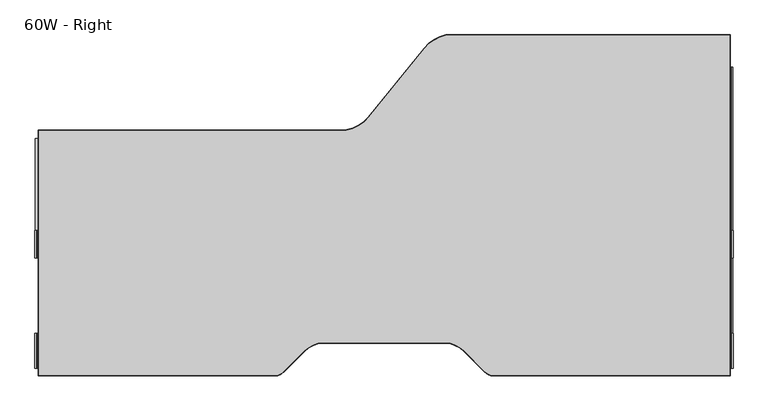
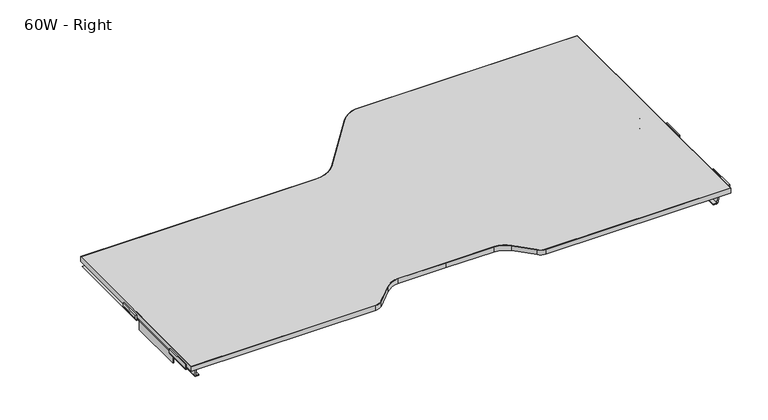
"""IFC4 building model written with IfcOpenShell, lengths in millimetres: furniture geometry, Steelcase Turnstone - Bivi - Table - Dual Top - Lower : 60W - Right."""

from ifc_helpers import new_model, si_unit, point, frame, frame_2d, origin, place, context, project, spatial, polyline, circle_curve, ellipse_curve, trimmed, segment, composite_curve, outline, extrude, source, transform, mapped, element, save
from ifc_brep_helpers import plane_surface, cylinder_surface, revolved_surface, advanced_brep


def furniture_60w_right_3e926bd7(model_context):
    return source(origin(), model_context, "Body", "SolidModel", [
        advanced_brep(
        [(1017.4901364, -89.1376402, 724.5249134), (971.5732244, -117.1117408, 724.5249134), (852.7982248, -263.786479, 724.5249134), (792.4632404, -292.2477989, 724.5249134), (150.7558466, -292.2477989, 724.5249134), (150.7558466, -814.2061738, 724.5249134), (653.8424613, -814.2061738, 724.5249134), (672.5249468, -805.5482561, 724.5249134), (716.3864317, -761.6868032, 724.5249134), (755.129423, -744.2993467, 724.5249134), (886.2032875, -744.2993467, 724.5249134), (1017.2770699, -744.2993467, 724.5249134), (1056.0202275, -761.6868553, 724.5249134), (1099.5811176, -805.3382607, 724.5249134), (1118.5570931, -814.2061738, 724.5249134), (1622.054541, -814.2061738, 724.5249134), (1622.054541, -89.1373857, 724.5249134), (1017.4901364, -89.1376402, 710.5549328), (1622.054541, -89.1373857, 710.5549328), (1622.054541, -814.2061738, 710.5549328), (1118.5570931, -814.2061738, 710.5549328), (1099.5811176, -805.3382607, 710.5549328), (1056.0202275, -761.6868553, 710.5549328), (1017.2770699, -744.2993467, 710.5549328), (886.2032875, -744.2993467, 710.5549328), (755.129423, -744.2993467, 710.5549328), (716.3864317, -761.6868032, 710.5549328), (672.5249468, -805.5482561, 710.5549328), (653.8424613, -814.1239839, 710.5549328), (150.7558466, -814.2061738, 710.5549328), (150.7558466, -292.2477989, 710.5549328), (792.4632404, -292.2477989, 710.5549328), (852.7982248, -263.786479, 710.5549328), (971.5732244, -117.1117408, 710.5549328)],
        [
            (0, 1, circle_curve(frame((1033.7062378, -167.4261218, 724.5249134), z_axis=(0.0, 0.0, 1.0), x_axis=(-0.4063186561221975, -0.913731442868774, 0.0)), 79.9502863)),
            (1, 2),
            (2, 3, circle_curve(frame((793.1218611, -215.4614562, 724.5249134), z_axis=(0.0, 0.0, -1.0), x_axis=(-0.4063186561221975, -0.913731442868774, 0.0)), 76.7891673)),
            (3, 4),
            (4, 5),
            (5, 6),
            (6, 7, circle_curve(frame((651.8494671, -785.1441379, 724.5249134), z_axis=(0.0, 0.0, 1.0), x_axis=(-0.4063186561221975, -0.913731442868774, 0.0)), 29.048296)),
            (7, 8),
            (8, 9, circle_curve(frame((758.6083688, -803.9087712, 724.5249134), z_axis=(0.0, 0.0, -1.0), x_axis=(-0.4063186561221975, -0.913731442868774, 0.0)), 59.7108579)),
            (9, 10),
            (10, 11),
            (11, 12, circle_curve(frame((1013.7981972, -803.9088855, 724.5249134), z_axis=(0.0, 0.0, -1.0), x_axis=(-0.4063186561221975, -0.913731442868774, 0.0)), 59.7109678)),
            (12, 13),
            (13, 14, circle_curve(frame((1121.2592477, -783.6871801, 724.5249134), z_axis=(0.0, 0.0, 1.0), x_axis=(-0.4063186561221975, -0.913731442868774, 0.0)), 30.6383847)),
            (14, 15),
            (15, 16),
            (16, 0),
            (17, 18),
            (18, 19),
            (19, 20),
            (20, 21, circle_curve(frame((1121.2592477, -783.6871801, 710.5549328), z_axis=(0.0, 0.0, -1.0), x_axis=(-0.4063186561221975, -0.913731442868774, 0.0)), 30.6383847)),
            (21, 22),
            (22, 23, circle_curve(frame((1013.7981972, -803.9088855, 710.5549328), z_axis=(0.0, 0.0, 1.0), x_axis=(-0.4063186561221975, -0.913731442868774, 0.0)), 59.7109678)),
            (23, 24),
            (24, 25),
            (25, 26, circle_curve(frame((758.6083688, -803.9087712, 710.5549328), z_axis=(0.0, 0.0, 1.0), x_axis=(-0.4063186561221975, -0.913731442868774, 0.0)), 59.7108579)),
            (26, 27),
            (27, 28, circle_curve(frame((651.8494671, -785.1441379, 710.5549328), z_axis=(0.0, 0.0, -1.0), x_axis=(-0.4063186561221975, -0.913731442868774, 0.0)), 29.048296)),
            (28, 29),
            (29, 30),
            (30, 31),
            (31, 32, circle_curve(frame((793.1218611, -215.4614562, 710.5549328), z_axis=(0.0, 0.0, 1.0), x_axis=(-0.4063186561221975, -0.913731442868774, 0.0)), 76.7891673)),
            (32, 33),
            (33, 17, circle_curve(frame((1033.7062378, -167.4261218, 710.5549328), z_axis=(0.0, 0.0, -1.0), x_axis=(-0.4063186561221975, -0.913731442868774, 0.0)), 79.9502863)),
            (16, 18),
            (17, 0),
            (15, 19),
            (14, 20),
            (13, 21),
            (12, 22),
            (11, 23),
            (10, 24),
            (9, 25),
            (8, 26),
            (7, 27),
            (6, 28),
            (5, 29),
            (4, 30),
            (3, 31),
            (2, 32),
            (1, 33),
        ],
        [
            plane_surface(frame((1622.054541, -89.1373857, 724.5249134), z_axis=(0.0, 0.0, 1.0), x_axis=(0.9999999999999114, 4.210482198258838e-07, 0.0))),
            plane_surface(frame((1622.054541, -89.1373857, 710.5549328), z_axis=(0.0, 0.0, -1.0), x_axis=(-0.9999999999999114, -4.210482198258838e-07, 0.0))),
            plane_surface(frame((1017.4901364, -89.1376402, 724.5249134), z_axis=(-4.210482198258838e-07, 0.9999999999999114, 0.0), x_axis=(0.0, 0.0, -1.0))),
            plane_surface(frame((1622.054541, -89.1373857, 724.5249134), z_axis=(1.0, 0.0, 0.0), x_axis=(0.0, 0.0, -1.0))),
            plane_surface(frame((1622.054541, -814.2061738, 724.5249134), z_axis=(0.0, -1.0, 0.0), x_axis=(0.0, 0.0, -1.0))),
            cylinder_surface(frame((1121.2592477, -783.6871801, 710.5549328), z_axis=(0.0, 0.0, 1.0), x_axis=(-0.4063186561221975, -0.913731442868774, 0.0)), 30.6383847),
            plane_surface(frame((1099.5811176, -805.3382607, 724.5249134), z_axis=(-0.7078402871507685, -0.7063725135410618, 0.0), x_axis=(0.0, 0.0, -1.0))),
            revolved_surface(polyline([(989.5365170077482, -858.4686742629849, 710.5549328), (989.5365170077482, -858.4686742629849, 724.5249134)]), (1013.7981972, -803.9088855, 710.5549328), (0.0, 0.0, -1.0)),
            plane_surface(frame((1017.2770699, -744.2993467, 724.5249134), z_axis=(0.0, -1.0, 0.0), x_axis=(0.0, 0.0, -1.0))),
            plane_surface(frame((886.2032875, -744.2993467, 724.5249134), z_axis=(0.0, -1.0, 0.0), x_axis=(0.0, 0.0, -1.0))),
            revolved_surface(polyline([(734.3467332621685, -858.4684595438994, 710.5549328), (734.3467332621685, -858.4684595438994, 724.5249134)]), (758.6083688, -803.9087712, 710.5549328), (0.0, 0.0, -1.0)),
            plane_surface(frame((716.3864317, -761.6868032, 724.5249134), z_axis=(0.7071065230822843, -0.7071070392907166, 0.0), x_axis=(0.0, 0.0, -1.0))),
            cylinder_surface(frame((651.8494671, -785.1441379, 710.5549328), z_axis=(0.0, 0.0, 1.0), x_axis=(-0.4063186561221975, -0.913731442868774, 0.0)), 29.048296),
            plane_surface(frame((653.8424613, -814.2061738, 724.5249134), z_axis=(0.0, -1.0, 0.0), x_axis=(0.0, 0.0, -1.0))),
            plane_surface(frame((150.7558466, -814.2061738, 724.5249134), z_axis=(-1.0, 0.0, 0.0), x_axis=(0.0, 0.0, -1.0))),
            plane_surface(frame((150.7558466, -292.2477989, 724.5249134), z_axis=(0.0, 1.0, 0.0), x_axis=(0.0, 0.0, -1.0))),
            revolved_surface(polyline([(761.9209898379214, -285.62613283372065, 710.5549328), (761.9209898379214, -285.62613283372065, 724.5249134)]), (793.1218611, -215.4614562, 710.5549328), (0.0, 0.0, -1.0)),
            plane_surface(frame((852.7982248, -263.786479, 724.5249134), z_axis=(-0.7771456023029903, 0.6293208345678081, 0.0), x_axis=(0.0, 0.0, -1.0))),
            cylinder_surface(frame((1033.7062378, -167.4261218, 710.5549328), z_axis=(0.0, 0.0, 1.0), x_axis=(-0.4063186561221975, -0.913731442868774, 0.0)), 79.9502863),
        ],
        [
            (0, [[1, 2, 3, 4, 5, 6, 7, 8, 9, 10, 11, 12, 13, 14, 15, 16, 17]]),
            (1, [[18, 19, 20, 21, 22, 23, 24, 25, 26, 27, 28, 29, 30, 31, 32, 33, 34]]),
            (2, [[35, -18, 36, -17]]),
            (3, [[37, -19, -35, -16]]),
            (4, [[38, -20, -37, -15]]),
            (5, [[39, -21, -38, -14]]),
            (6, [[40, -22, -39, -13]]),
            (7, [[41, -23, -40, -12]]),
            (8, [[42, -24, -41, -11]]),
            (9, [[43, -25, -42, -10]]),
            (10, [[44, -26, -43, -9]]),
            (11, [[45, -27, -44, -8]]),
            (12, [[46, -28, -45, -7]]),
            (13, [[47, -29, -46, -6]]),
            (14, [[48, -30, -47, -5]]),
            (15, [[49, -31, -48, -4]]),
            (16, [[50, -32, -49, -3]]),
            (17, [[51, -33, -50, -2]]),
            (18, [[-36, -34, -51, -1]]),
        ],
    ),
        extrude(outline(composite_curve([segment(polyline([(149.8432404, -815.2221738), (149.8432404, -291.2645176), (792.4555619, -291.2645176)]), True, "CONTINUOUS"), segment(trimmed(circle_curve(frame_2d((792.4555619, -214.0707453)), 77.1937723), [point((792.4555619, -291.2645176))], [point((852.0785981, -263.1010628))], True, "CARTESIAN"), True, "CONTINUOUS"), segment(polyline([(852.0785981, -263.1010628), (970.8808515, -116.3926937)]), True, "CONTINUOUS"), segment(trimmed(circle_curve(frame_2d((1033.4468929, -167.0577426)), 80.5074948), [point((970.8808515, -116.3926937))], [point((1017.4913654, -88.1471738))], False, "CARTESIAN"), True, "CONTINUOUS"), segment(polyline([(1017.4913654, -88.1471738), (1623.0432404, -88.1471738), (1623.0432404, -815.2221738), (1118.6992501, -815.2221738)]), True, "CONTINUOUS"), segment(trimmed(circle_curve(frame_2d((1121.2631908, -783.6783822)), 31.6478212), [point((1118.6992501, -815.2221738))], [point((1098.8724869, -806.0444494))], False, "CARTESIAN"), True, "CONTINUOUS"), segment(polyline([(1098.8724869, -806.0444494), (1055.301807, -762.4052758)]), True, "CONTINUOUS"), segment(trimmed(circle_curve(frame_2d((1013.7981972, -803.9088855)), 58.6949678), [point((1055.301807, -762.4052758))], [point((1017.2473205, -745.3153467))], True, "CARTESIAN"), True, "CONTINUOUS"), segment(polyline([(1017.2473205, -745.3153467), (886.2032875, -745.3153467), (754.8597903, -745.3153467)]), True, "CONTINUOUS"), segment(trimmed(circle_curve(frame_2d((758.5921228, -803.8917343)), 58.6951743), [point((754.8597903, -745.3153467))], [point((717.0883671, -762.3879785))], True, "CARTESIAN"), True, "CONTINUOUS"), segment(polyline([(717.0883671, -762.3879785), (673.1030177, -806.4601292)]), True, "CONTINUOUS"), segment(trimmed(circle_curve(frame_2d((651.8021969, -785.1871914)), 30.1041999), [point((673.1030177, -806.4601292))], [point((653.8424613, -815.2221738))], False, "CARTESIAN"), True, "CONTINUOUS"), segment(polyline([(653.8424613, -815.2221738), (149.8432404, -815.2221738)]), True, "CONTINUOUS")], self_intersect=False), holes=[composite_curve([segment(polyline([(1622.054541, -814.2061738), (1622.054541, -89.1373857), (1017.4901364, -89.1376402)]), True, "CONTINUOUS"), segment(trimmed(circle_curve(frame_2d((1033.7062378, -167.4261218)), 79.9502863), [point((1017.4901364, -89.1376402))], [point((971.5732244, -117.1117408))], True, "CARTESIAN"), True, "CONTINUOUS"), segment(polyline([(971.5732244, -117.1117408), (852.7982248, -263.786479)]), True, "CONTINUOUS"), segment(trimmed(circle_curve(frame_2d((793.1218611, -215.4614562)), 76.7891673), [point((852.7982248, -263.786479))], [point((792.4632404, -292.2477989))], False, "CARTESIAN"), True, "CONTINUOUS"), segment(polyline([(792.4632404, -292.2477989), (150.7558466, -292.2477989), (150.7558466, -814.2061738), (653.8424613, -814.2061738)]), True, "CONTINUOUS"), segment(trimmed(circle_curve(frame_2d((651.8367587, -785.1872141)), 29.0881912), [point((653.8424613, -814.2061738))], [point((672.5545422, -805.605253))], True, "CARTESIAN"), True, "CONTINUOUS"), segment(polyline([(672.5545422, -805.605253), (716.3865606, -761.6866743)]), True, "CONTINUOUS"), segment(trimmed(circle_curve(frame_2d((758.6083688, -803.9087712)), 59.7108579), [point((716.3865606, -761.6866743))], [point((755.129423, -744.2993467))], False, "CARTESIAN"), True, "CONTINUOUS"), segment(polyline([(755.129423, -744.2993467), (886.2032875, -744.2993467), (1017.2770699, -744.2993467)]), True, "CONTINUOUS"), segment(trimmed(circle_curve(frame_2d((1013.7981972, -803.9088855)), 59.7109678), [point((1017.2770699, -744.2993467))], [point((1056.0202275, -761.6868553))], False, "CARTESIAN"), True, "CONTINUOUS"), segment(polyline([(1056.0202275, -761.6868553), (1099.5811176, -805.3382607)]), True, "CONTINUOUS"), segment(trimmed(circle_curve(frame_2d((1121.2592477, -783.6871801)), 30.6383847), [point((1099.5811176, -805.3382607))], [point((1118.5570931, -814.2061738))], True, "CARTESIAN"), True, "CONTINUOUS"), segment(polyline([(1118.5570931, -814.2061738), (1622.054541, -814.2061738)]), True, "CONTINUOUS")], self_intersect=False)]), frame((0.0, 0.0, 710.5550297), z_axis=(0.0, 0.0, 1.0), x_axis=(1.0, 0.0, 0.0)), (0.0, 0.0, 1.0), 13.9698837),
        advanced_brep(
        [(145.5818241, -504.690356, 711.9212369), (145.5818241, -504.690356, 723.0029133), (145.5818241, -563.7451183, 723.0029133), (145.5818241, -563.7453741, 711.9212369), (145.5818241, -724.4001739, 711.9212369), (145.5818241, -724.4001739, 723.0029133), (145.5818241, -798.4679915, 723.0029133), (145.5818241, -798.4679915, 711.9212369), (142.5439281, -504.690356, 723.0029133), (142.5439281, -563.7451183, 723.0029133), (142.5439281, -724.4001739, 723.0029133), (142.5439281, -798.4679915, 723.0029133), (142.5439281, -504.690356, 711.9212369), (142.5439281, -563.7453741, 711.9212369), (142.5439281, -724.4001739, 711.9212369), (142.5439281, -798.4679915, 711.9212369), (143.7646064, -504.690356, 708.9675297), (143.7646064, -309.2290349, 708.9675297), (147.4373911, -309.2290349, 707.3122286), (147.4373911, -563.7454805, 707.3122286), (147.4373911, -724.4001739, 707.3122286), (147.4373911, -798.3703978, 707.3122286), (145.2762535, -798.4679915, 707.8143047), (168.8139092, -309.2290349, 707.3122286), (168.8139092, -563.7454805, 707.3122286), (168.8139092, -724.4001739, 707.3122286), (168.8139092, -798.3703978, 707.3122286), (170.6953721, -309.2290349, 705.4307657), (170.6953721, -798.0046785, 705.4307657), (170.6778738, -724.4001739, 705.6867706), (170.6778738, -563.745518, 705.6867706), (170.6953721, -309.2290349, 696.2929994), (170.6953721, -329.5446913, 678.5226778), (170.6953721, -792.7742761, 678.5226778), (175.2571761, -334.4128036, 674.264488), (175.2571761, -791.9465678, 674.264488), (183.3953277, -334.4128036, 674.264488), (183.3953277, -791.9465678, 674.264488), (183.3953277, -330.8423444, 677.3876068), (183.3953277, -792.5536406, 677.3876068), (174.3746318, -330.8423444, 677.3876068), (174.3746318, -792.5536406, 677.3876068), (174.3746318, -309.2290349, 696.2929994), (174.3746318, -309.2290349, 704.7057937), (174.3746318, -797.8637582, 704.7057937), (172.431084, -309.2290349, 708.9675297), (172.431084, -504.690356, 708.9675297), (168.7303737, -504.690356, 710.3500519), (168.7303737, -563.7454104, 710.3500519), (174.288731, -563.745518, 705.6867697), (174.2887309, -724.4001739, 705.6867706), (168.7303737, -724.4001739, 710.3500519), (168.7303737, -798.4679915, 710.3500519), (173.4415105, -798.4679915, 707.8143047), (147.4373911, -504.690356, 710.3500519), (147.4373911, -563.7454104, 710.3500519), (147.4373911, -724.4001739, 710.3500519), (147.4373911, -798.4679915, 710.3500519)],
        [
            (0, 1),
            (1, 2),
            (2, 3),
            (3, 0),
            (4, 5),
            (5, 6),
            (6, 7),
            (7, 4),
            (1, 8),
            (8, 9),
            (9, 2),
            (5, 10),
            (10, 11),
            (11, 6),
            (8, 12),
            (12, 13),
            (13, 9),
            (10, 14),
            (14, 15),
            (15, 11),
            (12, 16, circle_curve(frame((147.4373911, -504.690356, 712.2144694), z_axis=(0.0, -1.0, 0.0), x_axis=(0.0, 0.0, 1.0)), 4.9022408)),
            (16, 17),
            (17, 18, circle_curve(frame((147.4373911, -309.2290349, 712.2144694), z_axis=(0.0, -1.0, 0.0), x_axis=(0.0, 0.0, 1.0)), 4.9022408)),
            (18, 19),
            (19, 13, ellipse_curve(frame((147.4373911, -563.7453673, 712.2144694), z_axis=(0.0, 0.999999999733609, -2.3082072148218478e-05), x_axis=(0.0, 2.308207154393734e-05, 0.999999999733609)), 4.9022408, 4.9022408)),
            (14, 20, circle_curve(frame((147.4373911, -724.4001739, 712.2144694), z_axis=(0.0, -1.0, 0.0), x_axis=(0.0, 0.0, 1.0)), 4.9022408)),
            (20, 21),
            (21, 22, ellipse_curve(frame((147.4373911, -799.3232969, 712.2144694), z_axis=(0.0, 0.9816271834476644, 0.1908089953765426), x_axis=(0.0, 0.1908089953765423, -0.9816271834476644)), 4.9939945, 4.9022408)),
            (22, 15, circle_curve(frame((147.4373911, -798.4679915, 712.2144694), z_axis=(0.0, 1.0, 0.0), x_axis=(0.0, 0.0, 1.0)), 4.9022408)),
            (18, 23),
            (23, 24),
            (24, 19),
            (20, 25),
            (25, 26),
            (26, 21),
            (23, 27, circle_curve(frame((168.8139092, -309.2290349, 705.4307657), z_axis=(0.0, 1.0, 0.0), x_axis=(0.0, 0.0, 1.0)), 1.8814629)),
            (27, 28),
            (28, 26, ellipse_curve(frame((168.8139092, -798.0046785, 705.4307657), z_axis=(0.0, -0.9816271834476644, -0.1908089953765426), x_axis=(0.0, -0.1908089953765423, 0.9816271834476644)), 1.9166776, 1.8814629)),
            (25, 29, circle_curve(frame((168.8139092, -724.4001739, 705.4307657), z_axis=(0.0, 1.0, 0.0), x_axis=(0.0, 0.0, 1.0)), 1.8814629)),
            (29, 30),
            (30, 24, ellipse_curve(frame((168.8139092, -563.7455239, 705.4307657), z_axis=(0.0, -0.999999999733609, 2.3082072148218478e-05), x_axis=(0.0, -2.308207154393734e-05, -0.999999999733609)), 1.8814629, 1.8814629)),
            (27, 31),
            (31, 32),
            (32, 33),
            (33, 28),
            (32, 34, ellipse_curve(frame((175.2571761, -329.1852144, 678.8371161), z_axis=(0.0, -0.6583812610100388, 0.7526846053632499), x_axis=(0.0, 0.7526846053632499, 0.6583812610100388)), 6.9452585, 4.572628)),
            (34, 35),
            (35, 33, ellipse_curve(frame((175.2571761, -792.8353967, 678.8371161), z_axis=(0.0, 0.9816271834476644, 0.1908089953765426), x_axis=(0.0, 0.1908089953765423, -0.9816271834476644)), 4.6582125, 4.572628)),
            (34, 36),
            (36, 37),
            (37, 35),
            (36, 38),
            (38, 39),
            (39, 37),
            (38, 40),
            (40, 41),
            (41, 39),
            (40, 42),
            (42, 43),
            (43, 44),
            (44, 41),
            (43, 45, circle_curve(frame((168.7303737, -309.2290349, 704.7057937), z_axis=(0.0, -1.0, 0.0), x_axis=(0.0, 0.0, 1.0)), 5.6442581)),
            (45, 46),
            (46, 47, circle_curve(frame((168.7303737, -504.690356, 704.7057937), z_axis=(0.0, -1.0, 0.0), x_axis=(0.0, 0.0, 1.0)), 5.6442581)),
            (47, 48),
            (48, 49, ellipse_curve(frame((168.7303737, -563.7455407, 704.7057937), z_axis=(0.0, 0.999999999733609, -2.3082072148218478e-05), x_axis=(0.0, 2.308207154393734e-05, 0.999999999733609)), 5.6442581, 5.6442581)),
            (49, 50),
            (50, 51, circle_curve(frame((168.7303737, -724.4001739, 704.7057937), z_axis=(0.0, -1.0, 0.0), x_axis=(0.0, 0.0, 1.0)), 5.6442581)),
            (51, 52),
            (52, 53, circle_curve(frame((168.7303737, -798.4679915, 704.7057937), z_axis=(0.0, 1.0, 0.0), x_axis=(0.0, 0.0, 1.0)), 5.6442581)),
            (53, 44, ellipse_curve(frame((168.7303737, -797.8637582, 704.7057937), z_axis=(0.0, 0.9816271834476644, 0.1908089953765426), x_axis=(0.0, 0.1908089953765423, -0.9816271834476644)), 5.7499, 5.6442581)),
            (47, 54),
            (54, 55),
            (55, 48),
            (51, 56),
            (56, 57),
            (57, 52),
            (3, 55, ellipse_curve(frame((147.1748011, -563.7453741, 711.9212369), z_axis=(0.0, -0.999999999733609, 2.3082072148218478e-05), x_axis=(0.0, -2.308207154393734e-05, -0.999999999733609)), 1.592977, 1.592977)),
            (54, 0, circle_curve(frame((147.1748011, -504.690356, 711.9212369), z_axis=(0.0, 1.0, 0.0), x_axis=(0.0, 0.0, 1.0)), 1.592977)),
            (7, 57, circle_curve(frame((147.1748011, -798.4679915, 711.9212369), z_axis=(0.0, -1.0, 0.0), x_axis=(0.0, 0.0, 1.0)), 1.592977)),
            (56, 4, circle_curve(frame((147.1748011, -724.4001739, 711.9212369), z_axis=(0.0, 1.0, 0.0), x_axis=(0.0, 0.0, 1.0)), 1.592977)),
            (46, 16),
            (45, 17),
            (42, 31),
            (22, 53),
            (30, 49),
            (50, 29),
        ],
        [
            plane_surface(frame((145.5818241, -288.2588059, 711.9212369), z_axis=(1.0, 0.0, 0.0), x_axis=(0.0, -1.0, 0.0))),
            plane_surface(frame((145.5818241, -288.2588059, 723.0029133), z_axis=(0.0, 0.0, 1.0), x_axis=(0.0, -1.0, 0.0))),
            plane_surface(frame((142.5439281, -288.2588059, 723.0029133), z_axis=(-1.0, 0.0, 0.0), x_axis=(0.0, -1.0, 0.0))),
            cylinder_surface(frame((147.4373911, -802.6708653, 712.2144694), z_axis=(0.0, 1.0, 0.0), x_axis=(0.0, 0.0, 1.0)), 4.9022408),
            plane_surface(frame((147.4373911, -288.2588059, 707.3122286), z_axis=(0.0, 0.0, -1.0), x_axis=(0.0, -1.0, 0.0))),
            revolved_surface(polyline([(168.8139092, -798.3703978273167, 707.3122286), (168.8139092, -309.2290349, 707.3122286)]), (168.8139092, -802.6708653, 705.4307657), (0.0, -1.0, 0.0)),
            plane_surface(frame((170.6953721, -288.2588059, 705.4307657), z_axis=(-1.0, 0.0, 0.0), x_axis=(0.0, -1.0, 0.0))),
            cylinder_surface(frame((175.2571761, -802.6708653, 678.8371161), z_axis=(0.0, 1.0, 0.0), x_axis=(0.0, 0.0, 1.0)), 4.572628),
            plane_surface(frame((175.2571761, -288.2588059, 674.264488), z_axis=(0.0, 0.0, -1.0), x_axis=(0.0, -1.0, 0.0))),
            plane_surface(frame((183.3953277, -288.2588059, 674.264488), z_axis=(1.0, 0.0, 0.0), x_axis=(0.0, -1.0, 0.0))),
            plane_surface(frame((183.3953277, -288.2588059, 677.3876068), z_axis=(0.0, 0.0, 1.0), x_axis=(0.0, -1.0, 0.0))),
            plane_surface(frame((174.3746318, -288.2588059, 677.3876068), z_axis=(1.0, 0.0, 0.0), x_axis=(0.0, -1.0, 0.0))),
            cylinder_surface(frame((168.7303737, -802.6708653, 704.7057937), z_axis=(0.0, 1.0, 0.0), x_axis=(0.0, 0.0, 1.0)), 5.6442581),
            plane_surface(frame((168.7303737, -288.2588059, 710.3500519), z_axis=(0.0, 0.0, 1.0), x_axis=(0.0, -1.0, 0.0))),
            revolved_surface(polyline([(147.1748011, -563.7454108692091, 713.5142139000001), (147.1748011, -504.690356, 713.5142139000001)]), (147.1748011, -802.6708653, 711.9212369), (0.0, -1.0, 0.0)),
            revolved_surface(polyline([(147.1748011, -798.4679915, 713.5142139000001), (147.1748011, -724.4001739, 713.5142139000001)]), (147.1748011, -802.6708653, 711.9212369), (0.0, -1.0, 0.0)),
            plane_surface(frame((328.4213748, -504.690356, 708.9675297), z_axis=(0.0, 1.0, 0.0), x_axis=(-1.0, 0.0, 0.0))),
            plane_surface(frame((328.4213748, -309.2290349, 708.9675297), z_axis=(0.0, 0.0, 1.0), x_axis=(-1.0, 0.0, 0.0))),
            plane_surface(frame((328.4213748, -309.2290349, 696.2929994), z_axis=(0.0, 1.0, 0.0), x_axis=(-1.0, 0.0, 0.0))),
            plane_surface(frame((328.4213748, -798.4679915, 772.8340566), z_axis=(0.0, -1.0, 0.0), x_axis=(-1.0, 0.0, 0.0))),
            plane_surface(frame((328.4213748, -798.4679915, 707.8143047), z_axis=(0.0, -0.9816271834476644, -0.1908089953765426), x_axis=(-1.0, 0.0, 0.0))),
            plane_surface(frame((328.4213748, -563.7433492, 799.647778), z_axis=(0.0, -0.999999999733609, 2.3082072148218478e-05), x_axis=(-1.0, 0.0, 0.0))),
            plane_surface(frame((328.4213748, -724.4001739, 705.6867706), z_axis=(0.0, 1.0, 0.0), x_axis=(-1.0, 0.0, 0.0))),
            plane_surface(frame((328.4213748, -563.745518, 705.6867706), z_axis=(0.0, 0.0, 1.0), x_axis=(-1.0, 0.0, 0.0))),
            plane_surface(frame((328.4213748, -340.1846555, 669.2157875), z_axis=(0.0, 0.6583812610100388, -0.7526846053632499), x_axis=(-1.0, 0.0, 0.0))),
        ],
        [
            (0, [[1, 2, 3, 4]]),
            (0, [[5, 6, 7, 8]]),
            (1, [[9, 10, 11, -2]]),
            (1, [[12, 13, 14, -6]]),
            (2, [[15, 16, 17, -10]]),
            (2, [[18, 19, 20, -13]]),
            (3, [[21, 22, 23, 24, 25, -16]]),
            (3, [[26, 27, 28, 29, -19]]),
            (4, [[30, 31, 32, -24]]),
            (4, [[33, 34, 35, -27]]),
            (5, [[36, 37, 38, -34, 39, 40, 41, -31]]),
            (6, [[42, 43, 44, 45, -37]]),
            (7, [[46, 47, 48, -44]]),
            (8, [[49, 50, 51, -47]]),
            (9, [[52, 53, 54, -50]]),
            (10, [[55, 56, 57, -53]]),
            (11, [[58, 59, 60, 61, -56]]),
            (12, [[62, 63, 64, 65, 66, 67, 68, 69, 70, 71, -60]]),
            (13, [[72, 73, 74, -65]]),
            (13, [[75, 76, 77, -69]]),
            (14, [[78, -73, 79, -4]]),
            (15, [[80, -76, 81, -8]]),
            (16, [[-21, -15, -9, -1, -79, -72, -64, 82]]),
            (17, [[-63, 83, -22, -82]]),
            (18, [[-62, -59, 84, -42, -36, -30, -23, -83]]),
            (19, [[-70, -77, -80, -7, -14, -20, -29, 85]]),
            (20, [[-28, -35, -38, -45, -48, -51, -54, -57, -61, -71, -85]]),
            (21, [[-66, -74, -78, -3, -11, -17, -25, -32, -41, 86]]),
            (22, [[-39, -33, -26, -18, -12, -5, -81, -75, -68, 87]]),
            (23, [[-67, -86, -40, -87]]),
            (24, [[-58, -55, -52, -49, -46, -43, -84]]),
        ],
    ),
        extrude(outline(composite_curve([segment(polyline([(679.9693744, 1619.868518), (679.9693744, 1622.6213218), (705.5540224, 1622.6213218)]), True, "CONTINUOUS"), segment(trimmed(circle_curve(frame_2d((705.5540224, 1617.7260736)), 4.8952482), [point((705.5540224, 1622.6213218))], [point((710.4492706, 1617.7260736))], False, "CARTESIAN"), True, "CONTINUOUS"), segment(polyline([(710.4492706, 1617.7260736), (710.4492706, 1602.5376011)]), True, "CONTINUOUS"), segment(trimmed(circle_curve(frame_2d((704.8050125, 1602.5376011)), 5.6442581), [point((710.4492706, 1602.5376011))], [point((704.6171643, 1596.8964698))], False, "CARTESIAN"), True, "CONTINUOUS"), segment(polyline([(704.6171643, 1596.8964698), (704.6171643, 1600.5726027), (705.5299845, 1600.5726027)]), True, "CONTINUOUS"), segment(trimmed(circle_curve(frame_2d((705.5299845, 1602.4540656)), 1.8814629), [point((705.5299845, 1600.5726027))], [point((707.4114473, 1602.4540656))], True, "CARTESIAN"), True, "CONTINUOUS"), segment(polyline([(707.4114473, 1602.4540656), (707.4114473, 1618.1512583)]), True, "CONTINUOUS"), segment(trimmed(circle_curve(frame_2d((705.6941877, 1618.1512583)), 1.7172597), [point((707.4114473, 1618.1512583))], [point((705.6941877, 1619.868518))], True, "CARTESIAN"), True, "CONTINUOUS"), segment(polyline([(705.6941877, 1619.868518), (679.9693744, 1619.868518)]), True, "CONTINUOUS")], self_intersect=False)), frame((0.0, -721.8659271, 0.0), z_axis=(0.0, 1.0, 0.0), x_axis=(0.0, 0.0, 1.0)), (0.0, 0.0, 1.0), 155.5875545),
        advanced_brep(
        [(1593.6394249, -141.2161729, 708.6898523), (1593.6394249, -141.2161729, 710.5550297), (1593.6394249, -294.63737, 710.5550297), (1593.6394249, -336.1989805, 676.0971151), (1593.6394249, -172.0052613, 690.4622041), (1593.6394249, -166.4345251, 692.545017), (1593.6394249, -159.5028628, 697.5811645), (1593.6394249, -157.2460448, 702.0104193), (1593.6394249, -157.2460448, 706.0869959), (1593.6394249, -154.6431884, 708.6898523), (1050.0017507, -154.6431884, 708.6898523), (1059.4106484, -141.2161729, 708.6898523), (1048.1778153, -157.2460448, 706.0869959), (1048.1778153, -157.2460448, 702.0104193), (1046.5963641, -159.5028628, 697.5811645), (1041.7390447, -166.4345251, 692.545017), (1037.8353859, -172.0052613, 690.4622041), (922.7776568, -336.1989805, 676.0971151), (951.9016973, -294.63737, 710.5550297), (1059.4106484, -141.2161729, 710.5550297)],
        [
            (0, 1),
            (1, 2),
            (2, 3),
            (3, 4),
            (4, 5, circle_curve(frame((1593.6394249, -172.9750836, 701.5473235), z_axis=(1.0, 0.0, 0.0), x_axis=(0.0, -1.0, 0.0)), 11.1274627)),
            (5, 6),
            (6, 7, circle_curve(frame((1593.6394249, -162.7209047, 702.0104193), z_axis=(1.0, 0.0, 0.0), x_axis=(0.0, -1.0, 0.0)), 5.47486)),
            (7, 8),
            (8, 9, circle_curve(frame((1593.6394249, -154.6431884, 706.0869959), z_axis=(-1.0, 0.0, 0.0), x_axis=(0.0, -1.0, 0.0)), 2.6028564)),
            (9, 0),
            (9, 10),
            (10, 11),
            (11, 0),
            (8, 12),
            (12, 10, ellipse_curve(frame((1050.0017507, -154.6431884, 706.0869959), z_axis=(-0.8189456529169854, 0.573871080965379, 0.0), x_axis=(0.573871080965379, 0.8189456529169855, 0.0)), 3.1783017, 2.6028564)),
            (7, 13),
            (13, 12),
            (6, 14),
            (14, 13, ellipse_curve(frame((1044.3413412, -162.7209047, 702.0104193), z_axis=(0.8189456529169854, -0.573871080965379, 0.0), x_axis=(-0.573871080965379, -0.8189456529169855, 0.0)), 6.6852543, 5.47486)),
            (5, 15),
            (15, 14),
            (4, 16),
            (16, 15, ellipse_curve(frame((1037.155789, -172.9750836, 701.5473235), z_axis=(0.8189456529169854, -0.573871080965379, 0.0), x_axis=(-0.573871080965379, -0.8189456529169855, 0.0)), 13.5875472, 11.1274627)),
            (3, 17),
            (17, 16),
            (2, 18),
            (18, 17),
            (1, 19),
            (19, 18),
            (11, 19),
        ],
        [
            plane_surface(frame((1593.6394249, -141.2161729, 710.5550297), z_axis=(1.0, 0.0, 0.0), x_axis=(0.0, 0.0, -1.0))),
            plane_surface(frame((886.4432404, -154.6431884, 708.6898523), z_axis=(0.0, 0.0, -1.0), x_axis=(1.0, 0.0, 0.0))),
            revolved_surface(polyline([(1593.6394249, -157.24604480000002, 706.0869959), (1048.1778152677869, -157.24604480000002, 706.0869959)]), (1593.6394249, -154.6431884, 706.0869959), (1.0, 0.0, 0.0)),
            plane_surface(frame((886.4432404, -157.2460448, 702.0104193), z_axis=(0.0, 1.0, 0.0), x_axis=(1.0, 0.0, 0.0))),
            cylinder_surface(frame((1593.6394249, -162.7209047, 702.0104193), z_axis=(-1.0, 0.0, 0.0), x_axis=(0.0, -1.0, 0.0)), 5.47486),
            plane_surface(frame((886.4432404, -166.4345251, 692.545017), z_axis=(0.0, 0.5877852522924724, -0.8090169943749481), x_axis=(1.0, 0.0, 0.0))),
            cylinder_surface(frame((1593.6394249, -172.9750836, 701.5473235), z_axis=(-1.0, 0.0, 0.0), x_axis=(0.0, -1.0, 0.0)), 11.1274627),
            plane_surface(frame((886.4432404, -336.1989805, 676.0971151), z_axis=(0.0, 0.08715574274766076, -0.9961946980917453), x_axis=(1.0, 0.0, 0.0))),
            plane_surface(frame((886.4432404, -294.63737, 710.5550297), z_axis=(0.0, -0.6382501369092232, 0.7698290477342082), x_axis=(1.0, 0.0, 0.0))),
            plane_surface(frame((886.4432404, -141.2161729, 710.5550297), z_axis=(0.0, 0.0, 1.0), x_axis=(1.0, 0.0, 0.0))),
            plane_surface(frame((886.4432404, -141.2161729, 708.6898523), z_axis=(0.0, 1.0, 0.0), x_axis=(1.0, 0.0, 0.0))),
            plane_surface(frame((1095.90438, -89.1376072, 852.557595), z_axis=(-0.8189456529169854, 0.573871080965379, 0.0), x_axis=(0.0, 0.0, -1.0))),
        ],
        [
            (0, [[1, 2, 3, 4, 5, 6, 7, 8, 9, 10]]),
            (1, [[11, 12, 13, -10]]),
            (2, [[14, 15, -11, -9]]),
            (3, [[16, 17, -14, -8]]),
            (4, [[18, 19, -16, -7]]),
            (5, [[20, 21, -18, -6]]),
            (6, [[22, 23, -20, -5]]),
            (7, [[24, 25, -22, -4]]),
            (8, [[26, 27, -24, -3]]),
            (9, [[28, 29, -26, -2]]),
            (10, [[-13, 30, -28, -1]]),
            (11, [[-15, -17, -19, -21, -23, -25, -27, -29, -30, -12]]),
        ],
    ),
        advanced_brep(
        [(180.0098, -458.4797048, 708.9675297), (180.0098, -458.4797048, 710.5550297), (180.0098, -298.2366086, 710.5550297), (180.0098, -298.2366086, 709.0459836), (180.0098, -308.6713778, 709.0459836), (180.0098, -309.5087137, 708.2086478), (180.0098, -309.5087137, 701.216044), (180.0098, -310.6278496, 699.0196159), (180.0098, -338.8017218, 678.5500996), (180.0098, -341.4893915, 677.6768228), (180.0098, -437.0192661, 677.6768228), (180.0098, -439.5554602, 680.2130169), (180.0098, -439.5554602, 707.6300787), (180.0098, -440.8929112, 708.9675297), (1593.6394249, -458.4797048, 708.9675297), (1593.6394249, -440.8929112, 708.9675297), (1593.6394249, -439.5554602, 707.6300787), (1593.6394249, -439.5554602, 680.2130169), (1593.6394249, -437.0192661, 677.6768228), (1593.6394249, -341.4893915, 677.6768228), (1593.6394249, -338.8017218, 678.5500996), (1593.6394249, -310.6278496, 699.0196159), (1593.6394249, -309.5087137, 701.216044), (1593.6394249, -309.5087137, 708.2086478), (1593.6394249, -308.6713778, 709.0459836), (1593.6394249, -298.2366086, 709.0459836), (1593.6394249, -298.2366086, 710.5550297), (1593.6394249, -458.4797048, 710.5550297), (1509.8941045, -458.4797048, 710.5550297), (1509.8941045, -298.2366086, 710.5550297)],
        [
            (0, 1),
            (1, 2),
            (2, 3),
            (3, 4),
            (4, 5, circle_curve(frame((180.0098, -308.6713778, 708.2086478), z_axis=(1.0, 0.0, 0.0), x_axis=(0.0, -1.0, 0.0)), 0.8373358)),
            (5, 6),
            (6, 7, circle_curve(frame((180.0098, -312.223648, 701.216044), z_axis=(-1.0, 0.0, 0.0), x_axis=(0.0, -1.0, 0.0)), 2.7149344)),
            (7, 8),
            (8, 9, circle_curve(frame((180.0098, -341.4893915, 682.2493595), z_axis=(-1.0, 0.0, 0.0), x_axis=(0.0, -1.0, 0.0)), 4.5725367)),
            (9, 10),
            (10, 11, circle_curve(frame((180.0098, -437.0192661, 680.2130169), z_axis=(-1.0, 0.0, 0.0), x_axis=(0.0, -1.0, 0.0)), 2.5361941)),
            (11, 12),
            (12, 13, circle_curve(frame((180.0098, -440.8929112, 707.6300787), z_axis=(1.0, 0.0, 0.0), x_axis=(0.0, -1.0, 0.0)), 1.337451)),
            (13, 0),
            (14, 15),
            (15, 16, circle_curve(frame((1593.6394249, -440.8929112, 707.6300787), z_axis=(-1.0, 0.0, 0.0), x_axis=(0.0, -1.0, 0.0)), 1.337451)),
            (16, 17),
            (17, 18, circle_curve(frame((1593.6394249, -437.0192661, 680.2130169), z_axis=(1.0, 0.0, 0.0), x_axis=(0.0, -1.0, 0.0)), 2.5361941)),
            (18, 19),
            (19, 20, circle_curve(frame((1593.6394249, -341.4893915, 682.2493595), z_axis=(1.0, 0.0, 0.0), x_axis=(0.0, -1.0, 0.0)), 4.5725367)),
            (20, 21),
            (21, 22, circle_curve(frame((1593.6394249, -312.223648, 701.216044), z_axis=(1.0, 0.0, 0.0), x_axis=(0.0, -1.0, 0.0)), 2.7149344)),
            (22, 23),
            (23, 24, circle_curve(frame((1593.6394249, -308.6713778, 708.2086478), z_axis=(-1.0, 0.0, 0.0), x_axis=(0.0, -1.0, 0.0)), 0.8373358)),
            (24, 25),
            (25, 26),
            (26, 27),
            (27, 14),
            (0, 14),
            (27, 28),
            (28, 1),
            (26, 29),
            (29, 2),
            (25, 3),
            (24, 4),
            (23, 5),
            (22, 6),
            (21, 7),
            (20, 8),
            (19, 9),
            (18, 10),
            (17, 11),
            (16, 12),
            (15, 13),
        ],
        [
            plane_surface(frame((180.0098, -458.4797048, 708.9675297), z_axis=(-1.0, 0.0, 0.0), x_axis=(0.0, 1.0, 0.0))),
            plane_surface(frame((1593.6394249, -458.4797048, 708.9675297), z_axis=(1.0, 0.0, 0.0), x_axis=(0.0, -1.0, 0.0))),
            plane_surface(frame((180.0098, -458.4797048, 710.5550297), z_axis=(0.0, -1.0, 0.0), x_axis=(1.0, 0.0, 0.0))),
            plane_surface(frame((180.0098, -298.2366086, 710.5550297), z_axis=(0.0, 0.0, 1.0), x_axis=(1.0, 0.0, 0.0))),
            plane_surface(frame((180.0098, -298.2366086, 709.0459836), z_axis=(0.0, 1.0, 0.0), x_axis=(1.0, 0.0, 0.0))),
            plane_surface(frame((180.0098, -308.6713778, 709.0459836), z_axis=(0.0, 0.0, -1.0), x_axis=(1.0, 0.0, 0.0))),
            revolved_surface(polyline([(1593.6394249, -309.5087136, 708.2086478), (180.00980000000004, -309.5087136, 708.2086478)]), (1593.6394249, -308.6713778, 708.2086478), (1.0, 0.0, 0.0)),
            plane_surface(frame((180.0098, -309.5087137, 701.216044), z_axis=(0.0, 1.0, 0.0), x_axis=(1.0, 0.0, 0.0))),
            cylinder_surface(frame((1593.6394249, -312.223648, 701.216044), z_axis=(-1.0, 0.0, 0.0), x_axis=(0.0, -1.0, 0.0)), 2.7149344),
            plane_surface(frame((180.0098, -338.8017218, 678.5500996), z_axis=(0.0, 0.5877852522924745, -0.8090169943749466), x_axis=(1.0, 0.0, 0.0))),
            cylinder_surface(frame((1593.6394249, -341.4893915, 682.2493595), z_axis=(-1.0, 0.0, 0.0), x_axis=(0.0, -1.0, 0.0)), 4.5725367),
            plane_surface(frame((180.0098, -437.0192661, 677.6768228), z_axis=(0.0, 0.0, -1.0), x_axis=(1.0, 0.0, 0.0))),
            cylinder_surface(frame((1593.6394249, -437.0192661, 680.2130169), z_axis=(-1.0, 0.0, 0.0), x_axis=(0.0, -1.0, 0.0)), 2.5361941),
            plane_surface(frame((180.0098, -439.5554602, 707.6300787), z_axis=(0.0, -1.0, 0.0), x_axis=(1.0, 0.0, 0.0))),
            revolved_surface(polyline([(1593.6394249, -442.2303622, 707.6300787), (180.00980000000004, -442.2303622, 707.6300787)]), (1593.6394249, -440.8929112, 707.6300787), (1.0, 0.0, 0.0)),
            plane_surface(frame((180.0098, -458.4797048, 708.9675297), z_axis=(0.0, 0.0, -1.0), x_axis=(1.0, 0.0, 0.0))),
        ],
        [
            (0, [[1, 2, 3, 4, 5, 6, 7, 8, 9, 10, 11, 12, 13, 14]]),
            (1, [[15, 16, 17, 18, 19, 20, 21, 22, 23, 24, 25, 26, 27, 28]]),
            (2, [[29, -28, 30, 31, -1]]),
            (3, [[-31, -30, -27, 32, 33, -2]]),
            (4, [[-33, -32, -26, 34, -3]]),
            (5, [[-34, -25, 35, -4]]),
            (6, [[-35, -24, 36, -5]]),
            (7, [[-36, -23, 37, -6]]),
            (8, [[-37, -22, 38, -7]]),
            (9, [[-38, -21, 39, -8]]),
            (10, [[-39, -20, 40, -9]]),
            (11, [[-40, -19, 41, -10]]),
            (12, [[-41, -18, 42, -11]]),
            (13, [[-42, -17, 43, -12]]),
            (14, [[-43, -16, 44, -13]]),
            (15, [[-44, -15, -29, -14]]),
        ],
    ),
        advanced_brep(
        [(1625.7171566, -504.690356, 723.0029133), (1625.7171566, -504.690356, 711.9212369), (1625.7171566, -563.7453741, 711.9212369), (1625.7171566, -563.7451183, 723.0029133), (1625.7171566, -724.4001739, 723.0029133), (1625.7171566, -724.4001739, 711.9212369), (1625.7171566, -798.4679915, 711.9212369), (1625.7171566, -798.4679915, 723.0029133), (1628.7550526, -563.7451183, 723.0029133), (1628.7550526, -504.690356, 723.0029133), (1628.7550526, -798.4679915, 723.0029133), (1628.7550526, -724.4001739, 723.0029133), (1628.7550526, -563.7453741, 711.9212369), (1628.7550526, -504.690356, 711.9212369), (1628.7550526, -798.4679915, 711.9212369), (1628.7550526, -724.4001739, 711.9212369), (1628.4744229, -563.7454057, 710.5550315), (1628.4744222, -724.4001739, 710.5550297), (1626.0225274, -798.4679915, 707.8142066), (1623.8615896, -798.3704169, 707.3122286), (1623.8615896, -156.8290349, 707.3122286), (1628.4744222, -156.8290349, 710.5550297), (1628.4744222, -504.690356, 710.5550297), (1602.5457716, -798.3704169, 707.3122286), (1602.5457716, -156.8290349, 707.3122286), (1600.6643087, -798.0046976, 705.4307657), (1600.6643087, -156.8290349, 705.4307657), (1600.6643087, -792.755009, 678.4234591), (1600.6643087, -175.9536915, 678.4234591), (1600.6643087, -156.8290349, 695.1520004), (1596.1025047, -791.9273007, 674.1652693), (1596.1025047, -180.8218038, 674.1652693), (1587.9643531, -791.9273007, 674.1652693), (1587.9643531, -180.8218038, 674.1652693), (1587.9643531, -792.5343735, 677.2883881), (1587.9643531, -177.2513446, 677.2883881), (1596.985049, -792.5343735, 677.2883881), (1596.985049, -177.2513446, 677.2883881), (1596.985049, -797.8637773, 704.7057937), (1596.985049, -156.8290349, 704.7057937), (1596.985049, -156.8290349, 695.1520004), (1597.9181056, -798.4679915, 707.8142066), (1602.6293071, -798.4679915, 710.3500519), (1602.6293071, -156.8290349, 710.3500519), (1623.8615896, -798.4679915, 710.3500519), (1623.8615896, -156.8290349, 710.3500519), (1624.9433582, -724.4001739, 710.5550297), (1624.9433582, -563.7454056, 710.5550297), (1624.9433582, -504.690356, 710.5550297), (1624.9433582, -156.8290349, 710.5550297)],
        [
            (0, 1),
            (1, 2),
            (2, 3),
            (3, 0),
            (4, 5),
            (5, 6),
            (6, 7),
            (7, 4),
            (3, 8),
            (8, 9),
            (9, 0),
            (7, 10),
            (10, 11),
            (11, 4),
            (8, 12),
            (12, 13),
            (13, 9),
            (10, 14),
            (14, 15),
            (15, 11),
            (12, 16, ellipse_curve(frame((1623.8615896, -563.7453673, 712.2144694), z_axis=(0.0, 0.999999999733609, -2.3082072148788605e-05), x_axis=(0.0, 2.308207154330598e-05, 0.999999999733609)), 4.9022408, 4.9022408)),
            (16, 17),
            (17, 15, circle_curve(frame((1623.8615896, -724.4001739, 712.2144694), z_axis=(0.0, -1.0, 0.0), x_axis=(-1.0, 0.0, 0.0)), 4.9022408)),
            (14, 18, circle_curve(frame((1623.8615896, -798.4679915, 712.2144694), z_axis=(0.0, 1.0, 0.0), x_axis=(-1.0, 0.0, 0.0)), 4.9022408)),
            (18, 19, ellipse_curve(frame((1623.8615896, -799.323316, 712.2144694), z_axis=(0.0, 0.9816271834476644, 0.1908089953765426), x_axis=(0.0, 0.19080899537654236, -0.9816271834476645)), 4.9939945, 4.9022408)),
            (19, 20),
            (20, 21, circle_curve(frame((1623.8615896, -156.8290349, 712.2144694), z_axis=(0.0, -1.0, 0.0), x_axis=(-1.0, 0.0, 0.0)), 4.9022408)),
            (21, 22),
            (22, 13, circle_curve(frame((1623.8615896, -504.690356, 712.2144694), z_axis=(0.0, -1.0, 0.0), x_axis=(-1.0, 0.0, 0.0)), 4.9022408)),
            (19, 23),
            (23, 24),
            (24, 20),
            (23, 25, ellipse_curve(frame((1602.5457716, -798.0046976, 705.4307657), z_axis=(0.0, -0.9816271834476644, -0.1908089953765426), x_axis=(0.0, -0.19080899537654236, 0.9816271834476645)), 1.9166776, 1.8814629)),
            (25, 26),
            (26, 24, circle_curve(frame((1602.5457716, -156.8290349, 705.4307657), z_axis=(0.0, 1.0, 0.0), x_axis=(-1.0, 0.0, 0.0)), 1.8814629)),
            (25, 27),
            (27, 28),
            (28, 29),
            (29, 26),
            (27, 30, ellipse_curve(frame((1596.1025047, -792.8161296, 678.7378973), z_axis=(0.0, 0.9816271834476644, 0.1908089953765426), x_axis=(0.0, 0.19080899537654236, -0.9816271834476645)), 4.6582125, 4.572628)),
            (30, 31),
            (31, 28, ellipse_curve(frame((1596.1025047, -175.5942147, 678.7378973), z_axis=(0.0, -0.6583812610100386, 0.75268460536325), x_axis=(0.0, 0.75268460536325, 0.6583812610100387)), 6.9452585, 4.572628)),
            (30, 32),
            (32, 33),
            (33, 31),
            (32, 34),
            (34, 35),
            (35, 33),
            (34, 36),
            (36, 37),
            (37, 35),
            (36, 38),
            (38, 39),
            (39, 40),
            (40, 37),
            (38, 41, ellipse_curve(frame((1602.6293071, -797.8637773, 704.7057937), z_axis=(0.0, 0.9816271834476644, 0.1908089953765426), x_axis=(0.0, 0.19080899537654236, -0.9816271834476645)), 5.7499, 5.6442581)),
            (41, 42, circle_curve(frame((1602.6293071, -798.4679915, 704.7057937), z_axis=(0.0, 1.0, 0.0), x_axis=(-1.0, 0.0, 0.0)), 5.6442581)),
            (42, 43),
            (43, 39, circle_curve(frame((1602.6293071, -156.8290349, 704.7057937), z_axis=(0.0, -1.0, 0.0), x_axis=(-1.0, 0.0, 0.0)), 5.6442581)),
            (42, 44),
            (44, 45),
            (45, 43),
            (44, 6, circle_curve(frame((1624.1241796, -798.4679915, 711.9212369), z_axis=(0.0, -1.0, 0.0), x_axis=(-1.0, 0.0, 0.0)), 1.592977)),
            (5, 46, circle_curve(frame((1624.1241796, -724.4001739, 711.9212369), z_axis=(0.0, 1.0, 0.0), x_axis=(-1.0, 0.0, 0.0)), 1.592977)),
            (46, 47),
            (47, 2, ellipse_curve(frame((1624.1241796, -563.7453741, 711.9212369), z_axis=(0.0, -0.999999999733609, 2.3082072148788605e-05), x_axis=(0.0, -2.308207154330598e-05, -0.999999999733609)), 1.592977, 1.592977)),
            (1, 48, circle_curve(frame((1624.1241796, -504.690356, 711.9212369), z_axis=(0.0, 1.0, 0.0), x_axis=(-1.0, 0.0, 0.0)), 1.592977)),
            (48, 49),
            (49, 45, circle_curve(frame((1624.1241796, -156.8290349, 711.9212369), z_axis=(0.0, 1.0, 0.0), x_axis=(-1.0, 0.0, 0.0)), 1.592977)),
            (22, 48),
            (21, 49),
            (29, 40),
            (41, 18),
            (47, 16),
            (17, 46),
        ],
        [
            plane_surface(frame((1625.7171566, -135.3750964, 723.0029133), z_axis=(-1.0, 0.0, 0.0), x_axis=(0.0, -1.0, 0.0))),
            plane_surface(frame((1628.7550526, -135.3750964, 723.0029133), z_axis=(0.0, 0.0, 1.0), x_axis=(0.0, -1.0, 0.0))),
            plane_surface(frame((1628.7550526, -135.3750964, 711.9212369), z_axis=(1.0, 0.0, 0.0), x_axis=(0.0, -1.0, 0.0))),
            cylinder_surface(frame((1623.8615896, -803.622232, 712.2144694), z_axis=(0.0, 1.0, 0.0), x_axis=(-1.0, 0.0, 0.0)), 4.9022408),
            plane_surface(frame((1602.5457716, -135.3750964, 707.3122286), z_axis=(0.0, 0.0, -1.0), x_axis=(0.0, -1.0, 0.0))),
            revolved_surface(polyline([(1600.6643087, -798.3704169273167, 705.4307657), (1600.6643087, -156.8290349, 705.4307657)]), (1602.5457716, -803.622232, 705.4307657), (0.0, -1.0, 0.0)),
            plane_surface(frame((1600.6643087, -135.3750964, 678.4234591), z_axis=(1.0, 0.0, 0.0), x_axis=(0.0, -1.0, 0.0))),
            cylinder_surface(frame((1596.1025047, -803.622232, 678.7378973), z_axis=(0.0, 1.0, 0.0), x_axis=(-1.0, 0.0, 0.0)), 4.572628),
            plane_surface(frame((1587.9643531, -135.3750964, 674.1652693), z_axis=(0.0, 0.0, -1.0), x_axis=(0.0, -1.0, 0.0))),
            plane_surface(frame((1587.9643531, -135.3750964, 677.2883881), z_axis=(-1.0, 0.0, 0.0), x_axis=(0.0, -1.0, 0.0))),
            plane_surface(frame((1596.985049, -135.3750964, 677.2883881), z_axis=(0.0, 0.0, 1.0), x_axis=(0.0, -1.0, 0.0))),
            plane_surface(frame((1596.985049, -135.3750964, 704.7057937), z_axis=(-1.0, 0.0, 0.0), x_axis=(0.0, -1.0, 0.0))),
            cylinder_surface(frame((1602.6293071, -803.622232, 704.7057937), z_axis=(0.0, 1.0, 0.0), x_axis=(-1.0, 0.0, 0.0)), 5.6442581),
            plane_surface(frame((1623.8615896, -135.3750964, 710.3500519), z_axis=(0.0, 0.0, 1.0), x_axis=(0.0, -1.0, 0.0))),
            revolved_surface(polyline([(1622.5312026, -798.4679915, 711.9212369), (1622.5312026, -156.8290349, 711.9212369)]), (1624.1241796, -803.622232, 711.9212369), (0.0, -1.0, 0.0)),
            plane_surface(frame((2119.0277436, -504.690356, 710.5550297), z_axis=(0.0, 1.0, 0.0), x_axis=(-1.0, 0.0, 0.0))),
            plane_surface(frame((2119.0277436, -156.8290349, 710.5550297), z_axis=(0.0, 0.0, 1.0), x_axis=(-1.0, 0.0, 0.0))),
            plane_surface(frame((2119.0277436, -156.8290349, 695.1520004), z_axis=(0.0, 1.0, 0.0), x_axis=(-1.0, 0.0, 0.0))),
            plane_surface(frame((2119.0277436, -798.4679915, 772.8339584), z_axis=(0.0, -1.0, 0.0), x_axis=(-1.0, 0.0, 0.0))),
            plane_surface(frame((2119.0277436, -798.4679915, 707.8142066), z_axis=(0.0, -0.9816271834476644, -0.1908089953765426), x_axis=(-1.0, 0.0, 0.0))),
            plane_surface(frame((2119.0277436, -563.7433492, 799.6476798), z_axis=(0.0, -0.999999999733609, 2.3082072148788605e-05), x_axis=(-1.0, 0.0, 0.0))),
            plane_surface(frame((2119.0277436, -724.4001739, 710.5550297), z_axis=(0.0, 1.0, 0.0), x_axis=(-1.0, 0.0, 0.0))),
            plane_surface(frame((2119.0277436, -563.7454056, 710.5550297), z_axis=(0.0, 0.0, 1.0), x_axis=(-1.0, 0.0, 0.0))),
            plane_surface(frame((2119.0277436, -187.7846555, 668.0747886), z_axis=(0.0, 0.6583812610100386, -0.75268460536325), x_axis=(-1.0, 0.0, 0.0))),
        ],
        [
            (0, [[1, 2, 3, 4]]),
            (0, [[5, 6, 7, 8]]),
            (1, [[9, 10, 11, -4]]),
            (1, [[12, 13, 14, -8]]),
            (2, [[15, 16, 17, -10]]),
            (2, [[18, 19, 20, -13]]),
            (3, [[21, 22, 23, -19, 24, 25, 26, 27, 28, 29, -16]]),
            (4, [[30, 31, 32, -26]]),
            (5, [[33, 34, 35, -31]]),
            (6, [[36, 37, 38, 39, -34]]),
            (7, [[40, 41, 42, -37]]),
            (8, [[43, 44, 45, -41]]),
            (9, [[46, 47, 48, -44]]),
            (10, [[49, 50, 51, -47]]),
            (11, [[52, 53, 54, 55, -50]]),
            (12, [[56, 57, 58, 59, -53]]),
            (13, [[60, 61, 62, -58]]),
            (14, [[63, -6, 64, 65, 66, -2, 67, 68, 69, -61]]),
            (15, [[-67, -1, -11, -17, -29, 70]]),
            (16, [[-28, 71, -68, -70]]),
            (17, [[-27, -32, -35, -39, 72, -54, -59, -62, -69, -71]]),
            (18, [[-24, -18, -12, -7, -63, -60, -57, 73]]),
            (19, [[-56, -52, -49, -46, -43, -40, -36, -33, -30, -25, -73]]),
            (20, [[-21, -15, -9, -3, -66, 74]]),
            (21, [[-64, -5, -14, -20, -23, 75]]),
            (22, [[-22, -74, -65, -75]]),
            (23, [[-38, -42, -45, -48, -51, -55, -72]]),
        ],
    ),
        extrude(outline(composite_curve([segment(polyline([(679.9693744, 153.4992188), (705.5949689, 153.4992188)]), True, "CONTINUOUS"), segment(trimmed(circle_curve(frame_2d((705.5949689, 155.2164784)), 1.7172597), [point((705.5949689, 153.4992188))], [point((707.3122286, 155.2164784))], True, "CARTESIAN"), True, "CONTINUOUS"), segment(polyline([(707.3122286, 155.2164784), (707.3122286, 168.8139092)]), True, "CONTINUOUS"), segment(trimmed(circle_curve(frame_2d((705.4307657, 168.8139092)), 1.8814629), [point((707.3122286, 168.8139092))], [point((705.4307657, 170.6953721))], True, "CARTESIAN"), True, "CONTINUOUS"), segment(polyline([(705.4307657, 170.6953721), (704.6171643, 170.6953721), (704.6171643, 174.3739359)]), True, "CONTINUOUS"), segment(trimmed(circle_curve(frame_2d((704.7057937, 168.7303737)), 5.6442581), [point((704.6171643, 174.3739359))], [point((710.3500519, 168.7303737))], False, "CARTESIAN"), True, "CONTINUOUS"), segment(polyline([(710.3500519, 168.7303737), (710.3500519, 155.6510948)]), True, "CONTINUOUS"), segment(trimmed(circle_curve(frame_2d((705.4548037, 155.6510948)), 4.8952482), [point((710.3500519, 155.6510948))], [point((705.4548037, 150.7558466))], False, "CARTESIAN"), True, "CONTINUOUS"), segment(polyline([(705.4548037, 150.7558466), (679.9693744, 150.7558466), (679.9693744, 153.4992188)]), True, "CONTINUOUS")], self_intersect=False)), frame((0.0, -724.693155, 0.0), z_axis=(0.0, 1.0, 0.0), x_axis=(0.0, 0.0, 1.0)), (0.0, 0.0, 1.0), 158.4147825),
        extrude(outline(composite_curve([segment(polyline([(679.9693744, 153.4992188), (705.7368406, 153.4992188)]), True, "CONTINUOUS"), segment(trimmed(circle_curve(frame_2d((705.7368406, 155.0746068)), 1.575388), [point((705.7368406, 153.4992188))], [point((707.3122286, 155.0746068))], True, "CARTESIAN"), True, "CONTINUOUS"), segment(polyline([(707.3122286, 155.0746068), (707.3122286, 168.7532091)]), True, "CONTINUOUS"), segment(trimmed(circle_curve(frame_2d((705.4307657, 168.7532091)), 1.8814629), [point((707.3122286, 168.7532091))], [point((705.4307657, 170.634672))], True, "CARTESIAN"), True, "CONTINUOUS"), segment(polyline([(705.4307657, 170.634672), (703.618944, 170.634672), (703.618944, 174.3139317), (704.7057937, 174.3139317)]), True, "CONTINUOUS"), segment(trimmed(circle_curve(frame_2d((704.7057937, 168.6696736)), 5.6442581), [point((704.7057937, 174.3139317))], [point((710.3500519, 168.6696736))], False, "CARTESIAN"), True, "CONTINUOUS"), segment(polyline([(710.3500519, 168.6696736), (710.3500519, 155.7294756)]), True, "CONTINUOUS"), segment(trimmed(circle_curve(frame_2d((705.3257795, 155.7294756)), 5.0242724), [point((710.3500519, 155.7294756))], [point((705.3257795, 150.7052032))], False, "CARTESIAN"), True, "CONTINUOUS"), segment(polyline([(705.3257795, 150.7052032), (679.9693744, 150.7052032), (679.9693744, 153.4992188)]), True, "CONTINUOUS")], self_intersect=False)), frame((0.0, -724.693155, 0.0), z_axis=(0.0, 1.0, 0.0), x_axis=(0.0, 0.0, 1.0)), (0.0, 0.0, 1.0), 158.4089113),
    ])


if __name__ == "__main__":
    model = new_model("IFC4")
    model_context = context("Model", 3, world=origin())
    ifc_project = project(units=[si_unit("LENGTHUNIT", "METRE", prefix="MILLI")], contexts=[model_context])
    site = spatial("IfcSite", under=ifc_project)
    building = spatial("IfcBuilding", under=site)
    placement = place(None, origin())
    furniture_60w_right_shape = furniture_60w_right_3e926bd7(model_context)
    element("IfcFurniture", 1, ObjectType="Steelcase Turnstone - Bivi - Table - Dual Top - Lower : 60W - Right", at=placement, inside=building, context=model_context, shape_type="MappedRepresentation", body=[
        mapped(furniture_60w_right_shape, transform((0.0, 0.0, 0.0), x_axis=(1.0, 0.0, 0.0), y_axis=(0.0, 1.0, 0.0), z_axis=(0.0, 0.0, 1.0))),
    ])
    save(model, "model.ifc")
